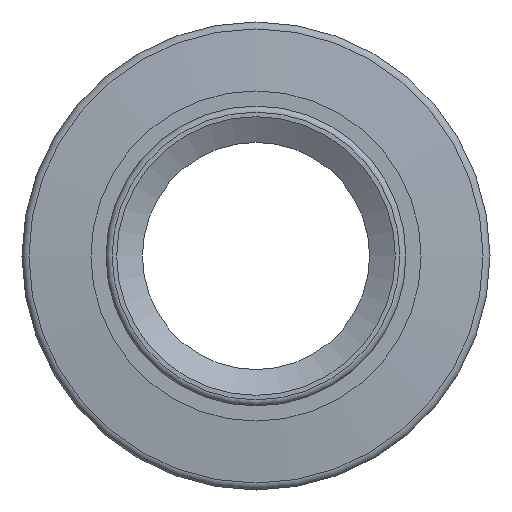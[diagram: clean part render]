
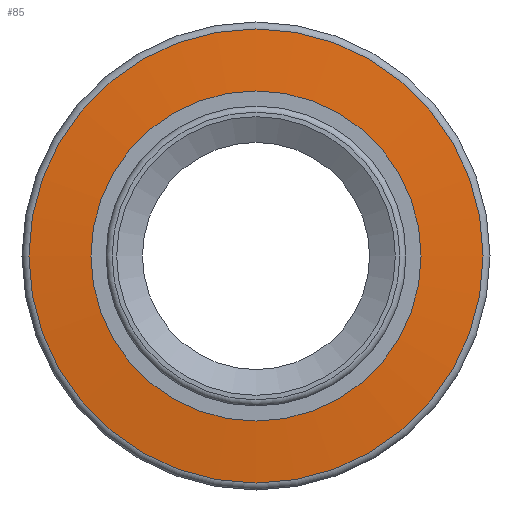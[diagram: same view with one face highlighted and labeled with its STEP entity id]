
A CAD part, front view. The second image highlights one B-rep face of the part: STEP entity #85.
In plain terms, the highlighted conical face has half-angle 85 degrees and reference radius 12.653 mm.
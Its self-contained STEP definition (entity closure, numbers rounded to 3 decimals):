
#85=ADVANCED_FACE('',(#505,#507),#509,.T.);
#505=FACE_OUTER_BOUND('',#506,.T.);
#506=EDGE_LOOP('',(#1046));
#507=FACE_OUTER_BOUND('',#508,.T.);
#508=EDGE_LOOP('',(#1047));
#509=CONICAL_SURFACE('',#510,12.653,1.484);
#510=AXIS2_PLACEMENT_3D('',#511,#512,#513);
#511=CARTESIAN_POINT('',(0.,-7.045,0.));
#512=DIRECTION('',(0.,1.,0.));
#513=DIRECTION('',(-1.,0.,0.));
#1046=ORIENTED_EDGE('',*,*,#1208,.F.);
#1047=ORIENTED_EDGE('',*,*,#1209,.T.);
#1208=EDGE_CURVE('',#1360,#1360,#1361,.F.);
#1209=EDGE_CURVE('',#1362,#1362,#1363,.F.);
#1360=VERTEX_POINT('',#1724);
#1361=CIRCLE('',#1725,10.313);
#1362=VERTEX_POINT('',#1729);
#1363=CIRCLE('',#1730,14.994);
#1724=CARTESIAN_POINT('',(-10.313,-7.249,0.));
#1725=AXIS2_PLACEMENT_3D('',#1726,#1727,#1728);
#1726=CARTESIAN_POINT('',(0.,-7.249,0.));
#1727=DIRECTION('',(0.,1.,0.));
#1728=DIRECTION('',(-1.,0.,0.));
#1729=CARTESIAN_POINT('',(-14.994,-6.84,0.));
#1730=AXIS2_PLACEMENT_3D('',#1731,#1732,#1733);
#1731=CARTESIAN_POINT('',(0.,-6.84,0.));
#1732=DIRECTION('',(0.,1.,0.));
#1733=DIRECTION('',(-1.,0.,0.));
